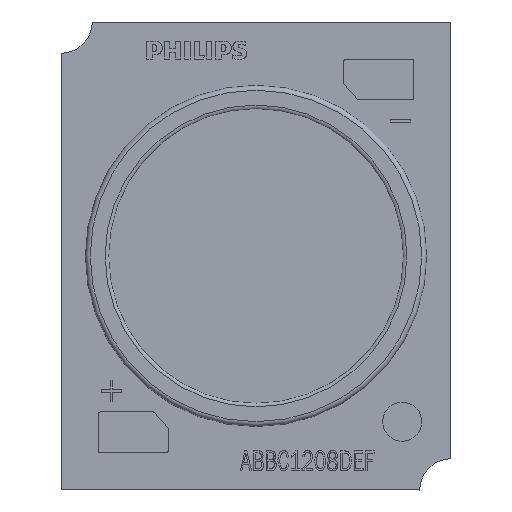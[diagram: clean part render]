
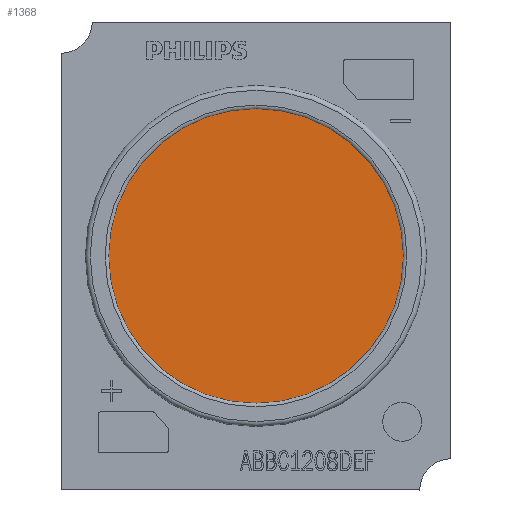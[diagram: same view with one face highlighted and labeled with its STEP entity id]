
A CAD part, top view. The second image highlights one B-rep face of the part: STEP entity #1368.
In plain terms, the highlighted planar face has unit normal (0, 0, 1).
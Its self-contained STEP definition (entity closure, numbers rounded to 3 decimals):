
#919=FACE_OUTER_BOUND('',#2303,.T.);
#1368=ADVANCED_FACE('',(#919),#1762,.T.);
#1762=PLANE('',#9380);
#2303=EDGE_LOOP('',(#4824));
#2364=CIRCLE('',#9379,7.563);
#4824=ORIENTED_EDGE('',*,*,#6883,.T.);
#5651=VERTEX_POINT('',#15051);
#6883=EDGE_CURVE('',#5651,#5651,#2364,.T.);
#9379=AXIS2_PLACEMENT_3D('',#15050,#11358,#11359);
#9380=AXIS2_PLACEMENT_3D('',#15052,#11360,#11361);
#11358=DIRECTION('',(0.,0.,1.));
#11359=DIRECTION('',(-1.,0.,0.));
#11360=DIRECTION('',(0.,0.,1.));
#11361=DIRECTION('',(-1.,0.,0.));
#15050=CARTESIAN_POINT('',(0.,0.,1.53));
#15051=CARTESIAN_POINT('',(-7.563,0.,1.53));
#15052=CARTESIAN_POINT('',(0.,0.,1.53));
